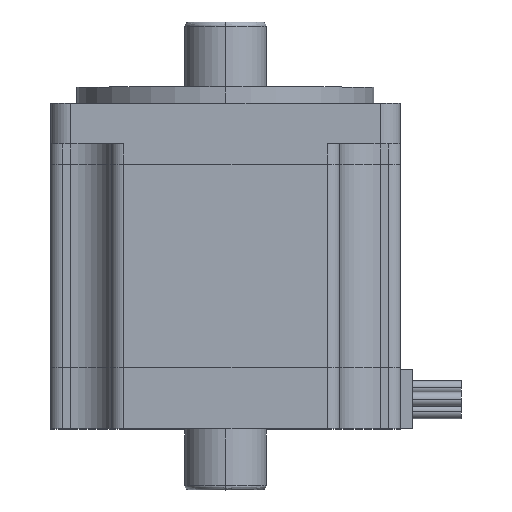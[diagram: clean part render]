
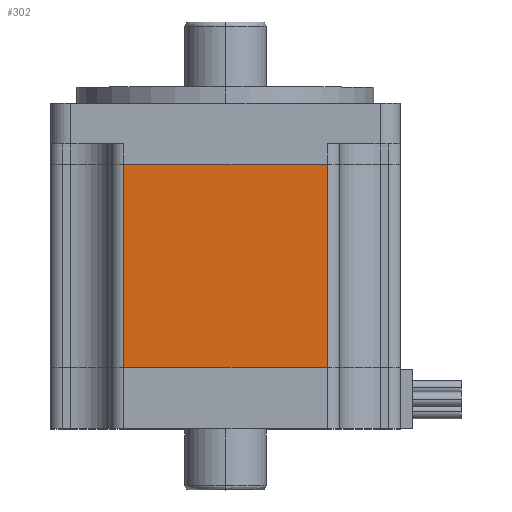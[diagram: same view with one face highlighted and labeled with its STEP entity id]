
A CAD part, top view. The second image highlights one B-rep face of the part: STEP entity #302.
In plain terms, the highlighted planar face has unit normal (0, 0, 1).
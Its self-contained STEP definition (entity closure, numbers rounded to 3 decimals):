
#79 = CARTESIAN_POINT ( 'NONE',  ( 25., -10., 43. ) ) ;
#112 = CARTESIAN_POINT ( 'NONE',  ( 25., -15., 43. ) ) ;
#125 = ORIENTED_EDGE ( 'NONE', *, *, #3183, .F. ) ;
#177 = CARTESIAN_POINT ( 'NONE',  ( 0., -15., 43. ) ) ;
#299 = CARTESIAN_POINT ( 'NONE',  ( 43., -65., 43. ) ) ;
#302 = ADVANCED_FACE ( 'NONE', ( #2049 ), #1712, .F. ) ;
#455 = LINE ( 'NONE', #1607, #3100 ) ;
#476 = VECTOR ( 'NONE', #3646, 1000. ) ;
#486 = EDGE_LOOP ( 'NONE', ( #125, #2301, #1348, #2568 ) ) ;
#603 = DIRECTION ( 'NONE',  ( -1., 0., 0. ) ) ;
#664 = EDGE_CURVE ( 'NONE', #2172, #3283, #1232, .T. ) ;
#744 = CARTESIAN_POINT ( 'NONE',  ( 25., -65., 43. ) ) ;
#991 = CARTESIAN_POINT ( 'NONE',  ( -25., -65., 43. ) ) ;
#1111 = DIRECTION ( 'NONE',  ( 0., -1., 0. ) ) ;
#1232 = LINE ( 'NONE', #177, #476 ) ;
#1292 = AXIS2_PLACEMENT_3D ( 'NONE', #299, #3725, #3780 ) ;
#1348 = ORIENTED_EDGE ( 'NONE', *, *, #3480, .F. ) ;
#1464 = VERTEX_POINT ( 'NONE', #744 ) ;
#1466 = DIRECTION ( 'NONE',  ( 0., 1., 0. ) ) ;
#1563 = CARTESIAN_POINT ( 'NONE',  ( -25., -15., 43. ) ) ;
#1607 = CARTESIAN_POINT ( 'NONE',  ( 43., -65., 43. ) ) ;
#1712 = PLANE ( 'NONE',  #1292 ) ;
#2049 = FACE_OUTER_BOUND ( 'NONE', #486, .T. ) ;
#2076 = VECTOR ( 'NONE', #1111, 1000. ) ;
#2172 = VERTEX_POINT ( 'NONE', #1563 ) ;
#2301 = ORIENTED_EDGE ( 'NONE', *, *, #664, .F. ) ;
#2568 = ORIENTED_EDGE ( 'NONE', *, *, #3733, .F. ) ;
#3100 = VECTOR ( 'NONE', #603, 1000. ) ;
#3156 = LINE ( 'NONE', #79, #2076 ) ;
#3183 = EDGE_CURVE ( 'NONE', #3283, #1464, #3156, .T. ) ;
#3283 = VERTEX_POINT ( 'NONE', #112 ) ;
#3428 = VECTOR ( 'NONE', #1466, 1000. ) ;
#3480 = EDGE_CURVE ( 'NONE', #4020, #2172, #3535, .T. ) ;
#3535 = LINE ( 'NONE', #4233, #3428 ) ;
#3646 = DIRECTION ( 'NONE',  ( 1., 0., 0. ) ) ;
#3725 = DIRECTION ( 'NONE',  ( 0., 0., -1. ) ) ;
#3733 = EDGE_CURVE ( 'NONE', #1464, #4020, #455, .T. ) ;
#3780 = DIRECTION ( 'NONE',  ( -1., 0., 0. ) ) ;
#4020 = VERTEX_POINT ( 'NONE', #991 ) ;
#4233 = CARTESIAN_POINT ( 'NONE',  ( -25., -65., 43. ) ) ;
